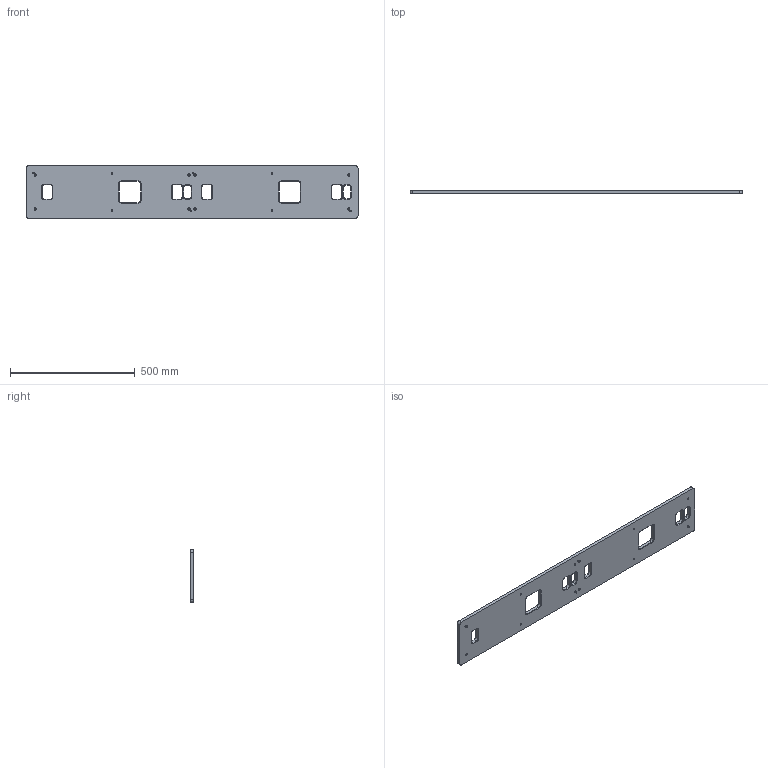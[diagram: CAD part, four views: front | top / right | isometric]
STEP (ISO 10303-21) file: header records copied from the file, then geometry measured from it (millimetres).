
FILE_DESCRIPTION (( 'STEP AP214' ), '1' );
FILE_NAME ('S4-AN-4.8 Flyway Mounting Plate Example 1X2, Through Hole Option.STEP', '2025-08-13T19:32:18', ( '' ), ( '' ), 'SwSTEP 2.0', 'SolidWorks 2022', '' );
FILE_SCHEMA (( 'AUTOMOTIVE_DESIGN' ));
Length unit declared in the file: millimetre
Products named in the file (1): S4-AN-4.8 Flyway Mounting Plate Example 1X2, Through Hole Option
Bounding box: 1330 x 15 x 210 mm (x, y, z)
Volume: 3774371 mm3; surface area: 578360.4 mm2
Topology: 1 solids, 1 shells, 320 faces, 864 edges, 552 vertices
Faces by surface type: plane 212, cylinder 68, cone 40
Entity records: 10093 total; most frequent: CARTESIAN_POINT 1737, ORIENTED_EDGE 1728, DIRECTION 1682, EDGE_CURVE 864, VECTOR 688, LINE 688, VERTEX_POINT 552, AXIS2_PLACEMENT_3D 497
